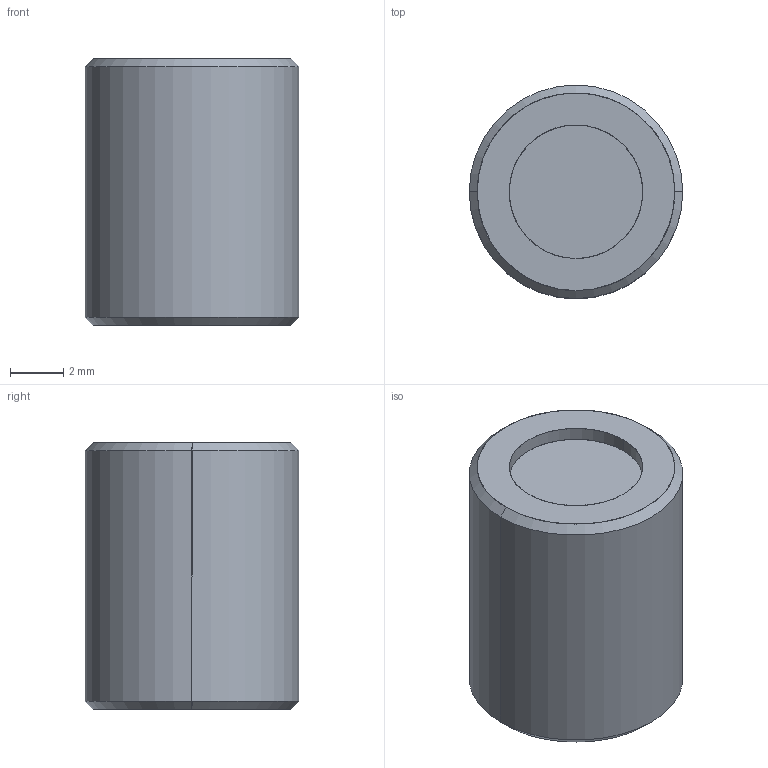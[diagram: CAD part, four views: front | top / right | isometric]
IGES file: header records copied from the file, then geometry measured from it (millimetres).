
Global section: file name: E:\UnigraphicsGraphicData\MISUMI_PRESS-PARTS\IGES\3d_mgn8_00559_r00.igs; native system: NX V5.0; preprocessor: UGS NX IGES V5.0; author: MISUMI; date: 20110105.161420; units: millimetre
Bounding box: 8 x 8 x 10 mm (x, y, z)
Surface area: 505.5 mm2 (no closed solid volume)
Topology: 0 solids, 0 shells, 22 faces, 140 edges, 140 vertices
Faces by surface type: bspline 22
